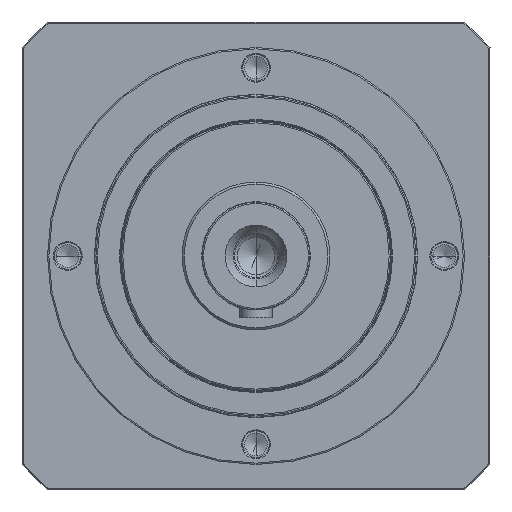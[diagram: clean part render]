
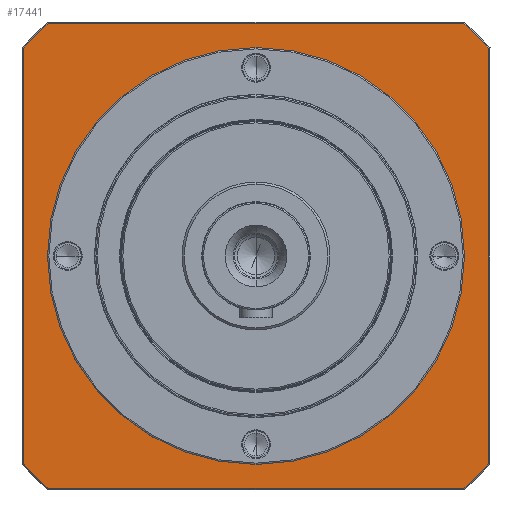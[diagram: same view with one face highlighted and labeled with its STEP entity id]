
A CAD part, left-side view. The second image highlights one B-rep face of the part: STEP entity #17441.
In plain terms, the highlighted planar face has unit normal (-1, 0, 0) as drawn and (0, 0, -1) by its records, which use the part's own axes.
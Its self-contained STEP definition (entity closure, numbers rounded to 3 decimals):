
#16327=CARTESIAN_POINT('',(0.,0.,
2.5));
#16328=DIRECTION('',(0.,0.,-1.));
#16329=DIRECTION('',(0.,-1.,0.));
#16330=AXIS2_PLACEMENT_3D('',#16327,#16328,#16329);
#16332=CARTESIAN_POINT('',(0.,0.,
2.5));
#16333=DIRECTION('',(0.,0.,-1.));
#16334=DIRECTION('',(0.,1.,0.));
#16335=AXIS2_PLACEMENT_3D('',#16332,#16333,#16334);
#16337=CARTESIAN_POINT('',(0.,0.,2.5));
#16338=DIRECTION('',(0.,0.,1.));
#16339=DIRECTION('',(-0.746,-0.666,0.));
#16340=AXIS2_PLACEMENT_3D('',#16337,#16338,#16339);
#16342=DIRECTION('',(1.,0.,0.));
#16343=VECTOR('',#16342,154.58);
#16344=CARTESIAN_POINT('',(-77.29,-86.5,
2.5));
#16345=LINE('',#16344,#16343);
#16346=CARTESIAN_POINT('',(0.,0.,2.5));
#16347=DIRECTION('',(0.,0.,1.));
#16348=DIRECTION('',(0.666,-0.746,0.));
#16349=AXIS2_PLACEMENT_3D('',#16346,#16347,#16348);
#16351=DIRECTION('',(0.,1.,0.));
#16352=VECTOR('',#16351,154.58);
#16353=CARTESIAN_POINT('',(86.5,-77.29,
2.5));
#16354=LINE('',#16353,#16352);
#16355=CARTESIAN_POINT('',(0.,0.,2.5));
#16356=DIRECTION('',(0.,0.,1.));
#16357=DIRECTION('',(0.746,0.666,0.));
#16358=AXIS2_PLACEMENT_3D('',#16355,#16356,#16357);
#16360=DIRECTION('',(-1.,0.,0.));
#16361=VECTOR('',#16360,154.58);
#16362=CARTESIAN_POINT('',(77.29,86.5,2.5));
#16363=LINE('',#16362,#16361);
#16364=CARTESIAN_POINT('',(0.,0.,2.5));
#16365=DIRECTION('',(0.,0.,1.));
#16366=DIRECTION('',(-0.666,0.746,0.));
#16367=AXIS2_PLACEMENT_3D('',#16364,#16365,#16366);
#16369=DIRECTION('',(0.,-1.,0.));
#16370=VECTOR('',#16369,154.58);
#16371=CARTESIAN_POINT('',(-86.5,77.29,
2.5));
#16372=LINE('',#16371,#16370);
#17090=CARTESIAN_POINT('',(0.,-69.5,2.5));
#17091=CARTESIAN_POINT('',(0.,69.5,
2.5));
#17092=VERTEX_POINT('',#17090);
#17093=VERTEX_POINT('',#17091);
#17194=CARTESIAN_POINT('',(-86.5,-77.29,2.5));
#17195=CARTESIAN_POINT('',(-77.29,-86.5,2.5));
#17196=VERTEX_POINT('',#17194);
#17197=VERTEX_POINT('',#17195);
#17202=CARTESIAN_POINT('',(77.29,-86.5,
2.5));
#17203=VERTEX_POINT('',#17202);
#17206=CARTESIAN_POINT('',(86.5,-77.29,2.5));
#17207=VERTEX_POINT('',#17206);
#17210=CARTESIAN_POINT('',(86.5,77.29,2.5));
#17211=VERTEX_POINT('',#17210);
#17214=CARTESIAN_POINT('',(77.29,86.5,2.5));
#17215=VERTEX_POINT('',#17214);
#17218=CARTESIAN_POINT('',(-77.29,86.5,
2.5));
#17219=VERTEX_POINT('',#17218);
#17224=CARTESIAN_POINT('',(-86.5,77.29,2.5));
#17225=VERTEX_POINT('',#17224);
#17413=CARTESIAN_POINT('',(0.,0.,2.5));
#17414=DIRECTION('',(0.,0.,1.));
#17415=DIRECTION('',(0.,1.,0.));
#17416=AXIS2_PLACEMENT_3D('',#17413,#17414,#17415);
#17417=PLANE('',#17416);
#17419=ORIENTED_EDGE('',*,*,#17418,.T.);
#17421=ORIENTED_EDGE('',*,*,#17420,.T.);
#17423=ORIENTED_EDGE('',*,*,#17422,.T.);
#17425=ORIENTED_EDGE('',*,*,#17424,.T.);
#17427=ORIENTED_EDGE('',*,*,#17426,.T.);
#17429=ORIENTED_EDGE('',*,*,#17428,.T.);
#17431=ORIENTED_EDGE('',*,*,#17430,.T.);
#17433=ORIENTED_EDGE('',*,*,#17432,.T.);
#17434=EDGE_LOOP('',(#17419,#17421,#17423,#17425,#17427,#17429,#17431,#17433));
#17435=FACE_OUTER_BOUND('',#17434,.F.);
#17437=ORIENTED_EDGE('',*,*,#17436,.T.);
#17438=ORIENTED_EDGE('',*,*,#17403,.T.);
#17439=EDGE_LOOP('',(#17437,#17438));
#17440=FACE_BOUND('',#17439,.F.);
#17441=ADVANCED_FACE('',(#17435,#17440),#17417,.F.);
#16331=CIRCLE('',#16330,69.5);
#16336=CIRCLE('',#16335,69.5);
#16341=CIRCLE('',#16340,116.);
#16350=CIRCLE('',#16349,116.);
#16359=CIRCLE('',#16358,116.);
#16368=CIRCLE('',#16367,116.);
#17403=EDGE_CURVE('',#17093,#17092,#16336,.T.);
#17418=EDGE_CURVE('',#17196,#17197,#16341,.T.);
#17420=EDGE_CURVE('',#17197,#17203,#16345,.T.);
#17422=EDGE_CURVE('',#17203,#17207,#16350,.T.);
#17424=EDGE_CURVE('',#17207,#17211,#16354,.T.);
#17426=EDGE_CURVE('',#17211,#17215,#16359,.T.);
#17428=EDGE_CURVE('',#17215,#17219,#16363,.T.);
#17430=EDGE_CURVE('',#17219,#17225,#16368,.T.);
#17432=EDGE_CURVE('',#17225,#17196,#16372,.T.);
#17436=EDGE_CURVE('',#17092,#17093,#16331,.T.);
